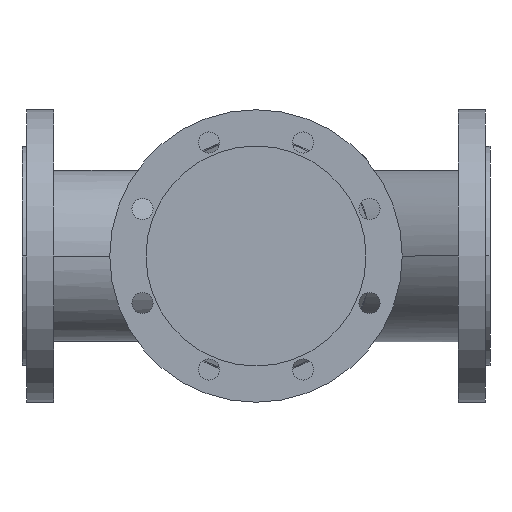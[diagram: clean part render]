
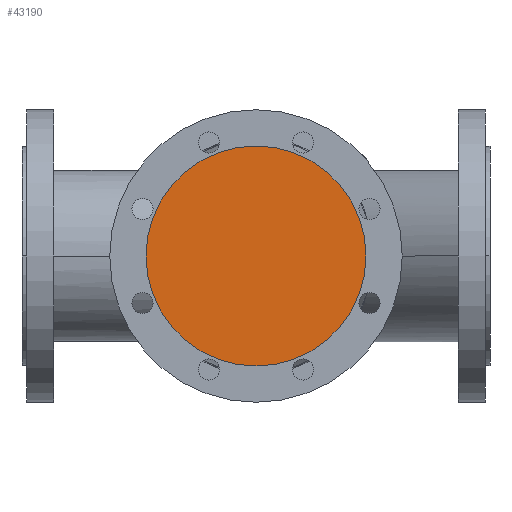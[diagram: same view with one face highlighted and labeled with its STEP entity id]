
A CAD part, front view. The second image highlights one B-rep face of the part: STEP entity #43190.
In plain terms, the highlighted planar face has unit normal (0, -1, 0).
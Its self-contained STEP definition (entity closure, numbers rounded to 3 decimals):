
#5370=CARTESIAN_POINT('',(106.,-200.,0.));
#5380=VERTEX_POINT('',#5370);
#5410=CARTESIAN_POINT('',(200.,-200.,0.));
#5420=DIRECTION('',(0.,1.,0.));
#5430=DIRECTION('',(1.,0.,0.));
#5440=AXIS2_PLACEMENT_3D('',#5410,#5420,#5430);
#5450=CIRCLE('',#5440,94.);
#5460=CARTESIAN_POINT('',(294.,-200.,0.));
#5470=VERTEX_POINT('',#5460);
#5480=EDGE_CURVE('',#5470,#5380,#5450,.T.);
#43090=CARTESIAN_POINT('',(247.,-200.,0.));
#43100=DIRECTION('',(0.,-1.,0.));
#43110=DIRECTION('',(-1.,0.,0.));
#43120=AXIS2_PLACEMENT_3D('',#43090,#43100,#43110);
#43130=PLANE('',#43120);
#43140=ORIENTED_EDGE('',*,*,#5480,.F.);
#43150=EDGE_CURVE('',#5380,#5470,#5450,.T.);
#43160=ORIENTED_EDGE('',*,*,#43150,.F.);
#43170=EDGE_LOOP('',(#43160,#43140));
#43180=FACE_OUTER_BOUND('',#43170,.T.);
#43190=ADVANCED_FACE('',(#43180),#43130,.T.);
